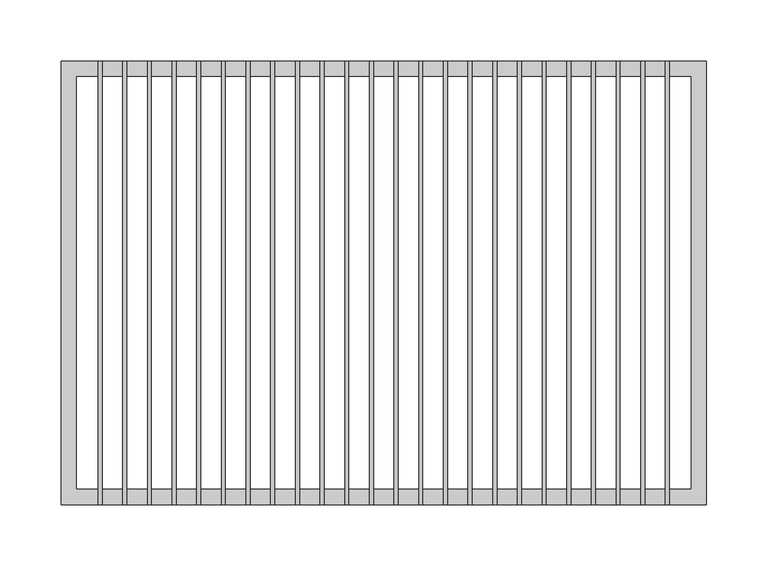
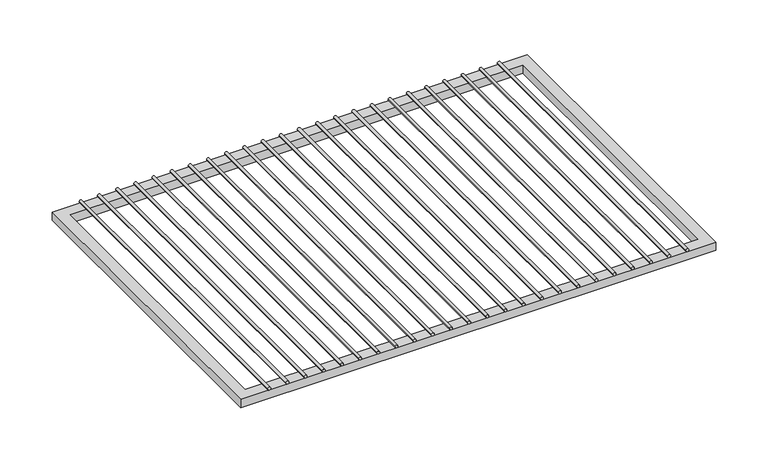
"""IFC4 building model written with IfcOpenShell, lengths in millimetres: furniture geometry, HermanMiller_CoStruc_CO252_CWireShelf : 14D x 20W."""

from ifc_helpers import new_model, si_unit, point, frame, frame_2d, origin, place, context, project, spatial, polyline, circle_curve, trimmed, segment, composite_curve, outline, extrude, source, transform, mapped, element, save


def furniture_c0c68944(model_context):
    return source(origin(), model_context, "Body", "SweptSolid", [
        extrude(outline(composite_curve([segment(trimmed(circle_curve(frame_2d((1397.79502, -211.6206522)), 1.5875), [point((1397.79502, -213.2081522))], [point((1397.79502, -210.0331522))], False, "CARTESIAN"), True, "CONTINUOUS"), segment(trimmed(circle_curve(frame_2d((1397.79502, -211.6206522)), 1.5875), [point((1397.79502, -210.0331522))], [point((1397.79502, -213.2081522))], False, "CARTESIAN"), True, "CONTINUOUS")], self_intersect=False)), frame((0.0, -180.975, 0.0), z_axis=(0.0, 1.0, 0.0), x_axis=(0.0, 0.0, 1.0)), (0.0, 0.0, 1.0), 361.95),
        extrude(outline(composite_curve([segment(trimmed(circle_curve(frame_2d((1397.79502, -191.4663043)), 1.5875), [point((1397.79502, -193.0538043))], [point((1397.79502, -189.8788043))], False, "CARTESIAN"), True, "CONTINUOUS"), segment(trimmed(circle_curve(frame_2d((1397.79502, -191.4663043)), 1.5875), [point((1397.79502, -189.8788043))], [point((1397.79502, -193.0538043))], False, "CARTESIAN"), True, "CONTINUOUS")], self_intersect=False)), frame((0.0, -180.975, 0.0), z_axis=(0.0, 1.0, 0.0), x_axis=(0.0, 0.0, 1.0)), (0.0, 0.0, 1.0), 361.95),
        extrude(outline(composite_curve([segment(trimmed(circle_curve(frame_2d((1397.79502, -171.3119565)), 1.5875), [point((1397.79502, -172.8994565))], [point((1397.79502, -169.7244565))], False, "CARTESIAN"), True, "CONTINUOUS"), segment(trimmed(circle_curve(frame_2d((1397.79502, -171.3119565)), 1.5875), [point((1397.79502, -169.7244565))], [point((1397.79502, -172.8994565))], False, "CARTESIAN"), True, "CONTINUOUS")], self_intersect=False)), frame((0.0, -180.975, 0.0), z_axis=(0.0, 1.0, 0.0), x_axis=(0.0, 0.0, 1.0)), (0.0, 0.0, 1.0), 361.95),
        extrude(outline(composite_curve([segment(trimmed(circle_curve(frame_2d((1397.79502, -151.1576087)), 1.5875), [point((1397.79502, -152.7451087))], [point((1397.79502, -149.5701087))], False, "CARTESIAN"), True, "CONTINUOUS"), segment(trimmed(circle_curve(frame_2d((1397.79502, -151.1576087)), 1.5875), [point((1397.79502, -149.5701087))], [point((1397.79502, -152.7451087))], False, "CARTESIAN"), True, "CONTINUOUS")], self_intersect=False)), frame((0.0, -180.975, 0.0), z_axis=(0.0, 1.0, 0.0), x_axis=(0.0, 0.0, 1.0)), (0.0, 0.0, 1.0), 361.95),
        extrude(outline(composite_curve([segment(trimmed(circle_curve(frame_2d((1397.79502, -131.0032609)), 1.5875), [point((1397.79502, -132.5907609))], [point((1397.79502, -129.4157609))], False, "CARTESIAN"), True, "CONTINUOUS"), segment(trimmed(circle_curve(frame_2d((1397.79502, -131.0032609)), 1.5875), [point((1397.79502, -129.4157609))], [point((1397.79502, -132.5907609))], False, "CARTESIAN"), True, "CONTINUOUS")], self_intersect=False)), frame((0.0, -180.975, 0.0), z_axis=(0.0, 1.0, 0.0), x_axis=(0.0, 0.0, 1.0)), (0.0, 0.0, 1.0), 361.95),
        extrude(outline(composite_curve([segment(trimmed(circle_curve(frame_2d((1397.79502, -110.848913)), 1.5875), [point((1397.79502, -112.436413))], [point((1397.79502, -109.261413))], False, "CARTESIAN"), True, "CONTINUOUS"), segment(trimmed(circle_curve(frame_2d((1397.79502, -110.848913)), 1.5875), [point((1397.79502, -109.261413))], [point((1397.79502, -112.436413))], False, "CARTESIAN"), True, "CONTINUOUS")], self_intersect=False)), frame((0.0, -180.975, 0.0), z_axis=(0.0, 1.0, 0.0), x_axis=(0.0, 0.0, 1.0)), (0.0, 0.0, 1.0), 361.95),
        extrude(outline(composite_curve([segment(trimmed(circle_curve(frame_2d((1397.79502, -90.6945652)), 1.5875), [point((1397.79502, -92.2820652))], [point((1397.79502, -89.1070652))], False, "CARTESIAN"), True, "CONTINUOUS"), segment(trimmed(circle_curve(frame_2d((1397.79502, -90.6945652)), 1.5875), [point((1397.79502, -89.1070652))], [point((1397.79502, -92.2820652))], False, "CARTESIAN"), True, "CONTINUOUS")], self_intersect=False)), frame((0.0, -180.975, 0.0), z_axis=(0.0, 1.0, 0.0), x_axis=(0.0, 0.0, 1.0)), (0.0, 0.0, 1.0), 361.95),
        extrude(outline(composite_curve([segment(trimmed(circle_curve(frame_2d((1397.79502, -70.5402174)), 1.5875), [point((1397.79502, -72.1277174))], [point((1397.79502, -68.9527174))], False, "CARTESIAN"), True, "CONTINUOUS"), segment(trimmed(circle_curve(frame_2d((1397.79502, -70.5402174)), 1.5875), [point((1397.79502, -68.9527174))], [point((1397.79502, -72.1277174))], False, "CARTESIAN"), True, "CONTINUOUS")], self_intersect=False)), frame((0.0, -180.975, 0.0), z_axis=(0.0, 1.0, 0.0), x_axis=(0.0, 0.0, 1.0)), (0.0, 0.0, 1.0), 361.95),
        extrude(outline(composite_curve([segment(trimmed(circle_curve(frame_2d((1397.79502, -50.3858696)), 1.5875), [point((1397.79502, -51.9733696))], [point((1397.79502, -48.7983696))], False, "CARTESIAN"), True, "CONTINUOUS"), segment(trimmed(circle_curve(frame_2d((1397.79502, -50.3858696)), 1.5875), [point((1397.79502, -48.7983696))], [point((1397.79502, -51.9733696))], False, "CARTESIAN"), True, "CONTINUOUS")], self_intersect=False)), frame((0.0, -180.975, 0.0), z_axis=(0.0, 1.0, 0.0), x_axis=(0.0, 0.0, 1.0)), (0.0, 0.0, 1.0), 361.95),
        extrude(outline(composite_curve([segment(trimmed(circle_curve(frame_2d((1397.79502, -30.2315217)), 1.5875), [point((1397.79502, -31.8190217))], [point((1397.79502, -28.6440217))], False, "CARTESIAN"), True, "CONTINUOUS"), segment(trimmed(circle_curve(frame_2d((1397.79502, -30.2315217)), 1.5875), [point((1397.79502, -28.6440217))], [point((1397.79502, -31.8190217))], False, "CARTESIAN"), True, "CONTINUOUS")], self_intersect=False)), frame((0.0, -180.975, 0.0), z_axis=(0.0, 1.0, 0.0), x_axis=(0.0, 0.0, 1.0)), (0.0, 0.0, 1.0), 361.95),
        extrude(outline(composite_curve([segment(trimmed(circle_curve(frame_2d((1397.79502, -10.0771739)), 1.5875), [point((1397.79502, -11.6646739))], [point((1397.79502, -8.4896739))], False, "CARTESIAN"), True, "CONTINUOUS"), segment(trimmed(circle_curve(frame_2d((1397.79502, -10.0771739)), 1.5875), [point((1397.79502, -8.4896739))], [point((1397.79502, -11.6646739))], False, "CARTESIAN"), True, "CONTINUOUS")], self_intersect=False)), frame((0.0, -180.975, 0.0), z_axis=(0.0, 1.0, 0.0), x_axis=(0.0, 0.0, 1.0)), (0.0, 0.0, 1.0), 361.95),
        extrude(outline(composite_curve([segment(trimmed(circle_curve(frame_2d((1397.79502, 10.0771739)), 1.5875), [point((1397.79502, 8.4896739))], [point((1397.79502, 11.6646739))], False, "CARTESIAN"), True, "CONTINUOUS"), segment(trimmed(circle_curve(frame_2d((1397.79502, 10.0771739)), 1.5875), [point((1397.79502, 11.6646739))], [point((1397.79502, 8.4896739))], False, "CARTESIAN"), True, "CONTINUOUS")], self_intersect=False)), frame((0.0, -180.975, 0.0), z_axis=(0.0, 1.0, 0.0), x_axis=(0.0, 0.0, 1.0)), (0.0, 0.0, 1.0), 361.95),
        extrude(outline(composite_curve([segment(trimmed(circle_curve(frame_2d((1397.79502, 30.2315217)), 1.5875), [point((1397.79502, 28.6440217))], [point((1397.79502, 31.8190217))], False, "CARTESIAN"), True, "CONTINUOUS"), segment(trimmed(circle_curve(frame_2d((1397.79502, 30.2315217)), 1.5875), [point((1397.79502, 31.8190217))], [point((1397.79502, 28.6440217))], False, "CARTESIAN"), True, "CONTINUOUS")], self_intersect=False)), frame((0.0, -180.975, 0.0), z_axis=(0.0, 1.0, 0.0), x_axis=(0.0, 0.0, 1.0)), (0.0, 0.0, 1.0), 361.95),
        extrude(outline(composite_curve([segment(trimmed(circle_curve(frame_2d((1397.79502, 50.3858696)), 1.5875), [point((1397.79502, 48.7983696))], [point((1397.79502, 51.9733696))], False, "CARTESIAN"), True, "CONTINUOUS"), segment(trimmed(circle_curve(frame_2d((1397.79502, 50.3858696)), 1.5875), [point((1397.79502, 51.9733696))], [point((1397.79502, 48.7983696))], False, "CARTESIAN"), True, "CONTINUOUS")], self_intersect=False)), frame((0.0, -180.975, 0.0), z_axis=(0.0, 1.0, 0.0), x_axis=(0.0, 0.0, 1.0)), (0.0, 0.0, 1.0), 361.95),
        extrude(outline(composite_curve([segment(trimmed(circle_curve(frame_2d((1397.79502, 70.5402174)), 1.5875), [point((1397.79502, 68.9527174))], [point((1397.79502, 72.1277174))], False, "CARTESIAN"), True, "CONTINUOUS"), segment(trimmed(circle_curve(frame_2d((1397.79502, 70.5402174)), 1.5875), [point((1397.79502, 72.1277174))], [point((1397.79502, 68.9527174))], False, "CARTESIAN"), True, "CONTINUOUS")], self_intersect=False)), frame((0.0, -180.975, 0.0), z_axis=(0.0, 1.0, 0.0), x_axis=(0.0, 0.0, 1.0)), (0.0, 0.0, 1.0), 361.95),
        extrude(outline(composite_curve([segment(trimmed(circle_curve(frame_2d((1397.79502, 90.6945652)), 1.5875), [point((1397.79502, 89.1070652))], [point((1397.79502, 92.2820652))], False, "CARTESIAN"), True, "CONTINUOUS"), segment(trimmed(circle_curve(frame_2d((1397.79502, 90.6945652)), 1.5875), [point((1397.79502, 92.2820652))], [point((1397.79502, 89.1070652))], False, "CARTESIAN"), True, "CONTINUOUS")], self_intersect=False)), frame((0.0, -180.975, 0.0), z_axis=(0.0, 1.0, 0.0), x_axis=(0.0, 0.0, 1.0)), (0.0, 0.0, 1.0), 361.95),
        extrude(outline(composite_curve([segment(trimmed(circle_curve(frame_2d((1397.79502, 110.848913)), 1.5875), [point((1397.79502, 109.261413))], [point((1397.79502, 112.436413))], False, "CARTESIAN"), True, "CONTINUOUS"), segment(trimmed(circle_curve(frame_2d((1397.79502, 110.848913)), 1.5875), [point((1397.79502, 112.436413))], [point((1397.79502, 109.261413))], False, "CARTESIAN"), True, "CONTINUOUS")], self_intersect=False)), frame((0.0, -180.975, 0.0), z_axis=(0.0, 1.0, 0.0), x_axis=(0.0, 0.0, 1.0)), (0.0, 0.0, 1.0), 361.95),
        extrude(outline(composite_curve([segment(trimmed(circle_curve(frame_2d((1397.79502, 131.0032609)), 1.5875), [point((1397.79502, 129.4157609))], [point((1397.79502, 132.5907609))], False, "CARTESIAN"), True, "CONTINUOUS"), segment(trimmed(circle_curve(frame_2d((1397.79502, 131.0032609)), 1.5875), [point((1397.79502, 132.5907609))], [point((1397.79502, 129.4157609))], False, "CARTESIAN"), True, "CONTINUOUS")], self_intersect=False)), frame((0.0, -180.975, 0.0), z_axis=(0.0, 1.0, 0.0), x_axis=(0.0, 0.0, 1.0)), (0.0, 0.0, 1.0), 361.95),
        extrude(outline(composite_curve([segment(trimmed(circle_curve(frame_2d((1397.79502, 151.1576087)), 1.5875), [point((1397.79502, 149.5701087))], [point((1397.79502, 152.7451087))], False, "CARTESIAN"), True, "CONTINUOUS"), segment(trimmed(circle_curve(frame_2d((1397.79502, 151.1576087)), 1.5875), [point((1397.79502, 152.7451087))], [point((1397.79502, 149.5701087))], False, "CARTESIAN"), True, "CONTINUOUS")], self_intersect=False)), frame((0.0, -180.975, 0.0), z_axis=(0.0, 1.0, 0.0), x_axis=(0.0, 0.0, 1.0)), (0.0, 0.0, 1.0), 361.95),
        extrude(outline(composite_curve([segment(trimmed(circle_curve(frame_2d((1397.79502, 171.3119565)), 1.5875), [point((1397.79502, 169.7244565))], [point((1397.79502, 172.8994565))], False, "CARTESIAN"), True, "CONTINUOUS"), segment(trimmed(circle_curve(frame_2d((1397.79502, 171.3119565)), 1.5875), [point((1397.79502, 172.8994565))], [point((1397.79502, 169.7244565))], False, "CARTESIAN"), True, "CONTINUOUS")], self_intersect=False)), frame((0.0, -180.975, 0.0), z_axis=(0.0, 1.0, 0.0), x_axis=(0.0, 0.0, 1.0)), (0.0, 0.0, 1.0), 361.95),
        extrude(outline(composite_curve([segment(trimmed(circle_curve(frame_2d((1397.79502, 191.4663043)), 1.5875), [point((1397.79502, 189.8788043))], [point((1397.79502, 193.0538043))], False, "CARTESIAN"), True, "CONTINUOUS"), segment(trimmed(circle_curve(frame_2d((1397.79502, 191.4663043)), 1.5875), [point((1397.79502, 193.0538043))], [point((1397.79502, 189.8788043))], False, "CARTESIAN"), True, "CONTINUOUS")], self_intersect=False)), frame((0.0, -180.975, 0.0), z_axis=(0.0, 1.0, 0.0), x_axis=(0.0, 0.0, 1.0)), (0.0, 0.0, 1.0), 361.95),
        extrude(outline(composite_curve([segment(trimmed(circle_curve(frame_2d((1397.79502, 211.6206522)), 1.5875), [point((1397.79502, 210.0331522))], [point((1397.79502, 213.2081522))], False, "CARTESIAN"), True, "CONTINUOUS"), segment(trimmed(circle_curve(frame_2d((1397.79502, 211.6206522)), 1.5875), [point((1397.79502, 213.2081522))], [point((1397.79502, 210.0331522))], False, "CARTESIAN"), True, "CONTINUOUS")], self_intersect=False)), frame((0.0, -180.975, 0.0), z_axis=(0.0, 1.0, 0.0), x_axis=(0.0, 0.0, 1.0)), (0.0, 0.0, 1.0), 361.95),
        extrude(outline(composite_curve([segment(trimmed(circle_curve(frame_2d((1397.79502, -231.775)), 1.5875), [point((1397.79502, -233.3625))], [point((1397.79502, -230.1875))], False, "CARTESIAN"), True, "CONTINUOUS"), segment(trimmed(circle_curve(frame_2d((1397.79502, -231.775)), 1.5875), [point((1397.79502, -230.1875))], [point((1397.79502, -233.3625))], False, "CARTESIAN"), True, "CONTINUOUS")], self_intersect=False)), frame((0.0, -180.975, 0.0), z_axis=(0.0, 1.0, 0.0), x_axis=(0.0, 0.0, 1.0)), (0.0, 0.0, 1.0), 361.95),
        extrude(outline(composite_curve([segment(trimmed(circle_curve(frame_2d((1397.79502, 231.775)), 1.5875), [point((1397.79502, 230.1875))], [point((1397.79502, 233.3625))], False, "CARTESIAN"), True, "CONTINUOUS"), segment(trimmed(circle_curve(frame_2d((1397.79502, 231.775)), 1.5875), [point((1397.79502, 233.3625))], [point((1397.79502, 230.1875))], False, "CARTESIAN"), True, "CONTINUOUS")], self_intersect=False)), frame((0.0, -180.975, 0.0), z_axis=(0.0, 1.0, 0.0), x_axis=(0.0, 0.0, 1.0)), (0.0, 0.0, 1.0), 361.95),
        extrude(outline(polyline([(-263.525, -180.975), (-263.525, 180.975), (263.525, 180.975), (263.525, -180.975), (-263.525, -180.975)]), holes=[polyline([(-250.825, -168.275), (250.825, -168.275), (250.825, 168.275), (-250.825, 168.275), (-250.825, -168.275)])]), frame((0.0, 0.0, 1386.68252), z_axis=(0.0, 0.0, 1.0), x_axis=(1.0, 0.0, 0.0)), (0.0, 0.0, 1.0), 9.525),
    ])


if __name__ == "__main__":
    model = new_model("IFC4")
    model_context = context("Model", 3, world=origin())
    ifc_project = project(units=[si_unit("LENGTHUNIT", "METRE", prefix="MILLI")], contexts=[model_context])
    site = spatial("IfcSite", under=ifc_project)
    building = spatial("IfcBuilding", under=site)
    placement = place(None, origin())
    furniture_shape = furniture_c0c68944(model_context)
    element("IfcFurniture", 1, ObjectType="HermanMiller_CoStruc_CO252_CWireShelf : 14D x 20W", at=placement, inside=building, context=model_context, shape_type="MappedRepresentation", body=[
        mapped(furniture_shape, transform((0.0, 0.0, 0.0), x_axis=(1.0, 0.0, 0.0), y_axis=(0.0, 1.0, 0.0), z_axis=(0.0, 0.0, 1.0))),
    ])
    save(model, "model.ifc")
